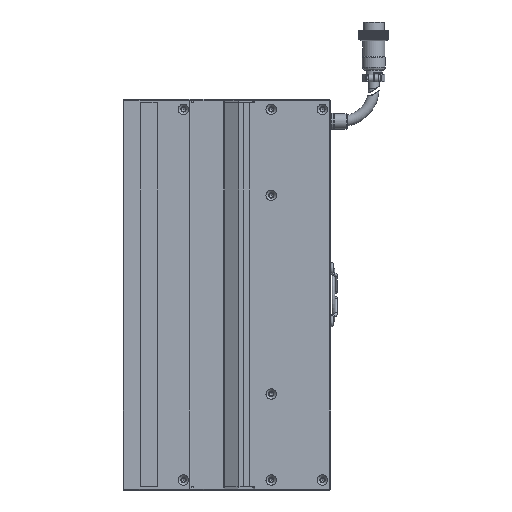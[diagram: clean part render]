
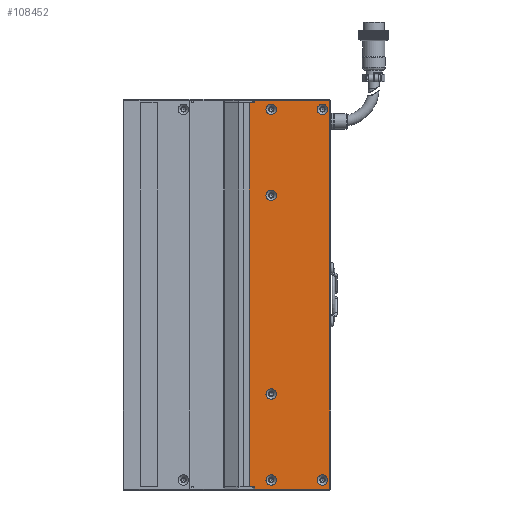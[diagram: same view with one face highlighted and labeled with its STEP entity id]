
A CAD part, left-side view. The second image highlights one B-rep face of the part: STEP entity #108452.
In plain terms, the highlighted planar face has unit normal (-1, 0, 0).
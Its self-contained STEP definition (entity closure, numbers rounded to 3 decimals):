
#178 = CARTESIAN_POINT ( 'NONE',  ( -24.998, -36.5, -112. ) ) ;
#300 = AXIS2_PLACEMENT_3D ( 'NONE', #178, #1355, #46596 ) ;
#1355 = DIRECTION ( 'NONE',  ( -1., 0., 0. ) ) ;
#2934 = FACE_BOUND ( 'NONE', #69316, .T. ) ;
#5555 = VERTEX_POINT ( 'NONE', #85342 ) ;
#7404 = CIRCLE ( 'NONE', #34135, 3.15 ) ;
#8455 = CARTESIAN_POINT ( 'NONE',  ( -24.998, -36.5, 60. ) ) ;
#8541 = CARTESIAN_POINT ( 'NONE',  ( -24.998, -26.5, -109. ) ) ;
#9167 = ORIENTED_EDGE ( 'NONE', *, *, #80696, .F. ) ;
#9360 = DIRECTION ( 'NONE',  ( -1., 0., 0. ) ) ;
#10610 = CIRCLE ( 'NONE', #37833, 3.15 ) ;
#12777 = ORIENTED_EDGE ( 'NONE', *, *, #48895, .T. ) ;
#18814 = CARTESIAN_POINT ( 'NONE',  ( -24.998, -36.5, 63.15 ) ) ;
#18902 = EDGE_LOOP ( 'NONE', ( #37335 ) ) ;
#20028 = CARTESIAN_POINT ( 'NONE',  ( -24.998, -26.5, 109. ) ) ;
#22432 = CARTESIAN_POINT ( 'NONE',  ( -24.998, -36.5, -108.85 ) ) ;
#24529 = LINE ( 'NONE', #56633, #40535 ) ;
#26698 = CIRCLE ( 'NONE', #300, 3.15 ) ;
#26938 = CIRCLE ( 'NONE', #34459, 3.15 ) ;
#27387 = EDGE_CURVE ( 'NONE', #50875, #50875, #10610, .T. ) ;
#29114 = FACE_BOUND ( 'NONE', #103604, .T. ) ;
#29634 = EDGE_LOOP ( 'NONE', ( #66583 ) ) ;
#29728 = CARTESIAN_POINT ( 'NONE',  ( -24.998, -67.5, -112. ) ) ;
#30045 = VERTEX_POINT ( 'NONE', #63463 ) ;
#30667 = FACE_BOUND ( 'NONE', #66935, .T. ) ;
#31002 = VECTOR ( 'NONE', #105621, 1000. ) ;
#32798 = EDGE_CURVE ( 'NONE', #117430, #33983, #24529, .T. ) ;
#32936 = CARTESIAN_POINT ( 'NONE',  ( -24.998, -72.5, 116. ) ) ;
#33086 = CARTESIAN_POINT ( 'NONE',  ( -24.998, -36.5, -56.85 ) ) ;
#33375 = DIRECTION ( 'NONE',  ( -1., 0., 0. ) ) ;
#33983 = VERTEX_POINT ( 'NONE', #118985 ) ;
#34135 = AXIS2_PLACEMENT_3D ( 'NONE', #111775, #9360, #75794 ) ;
#34459 = AXIS2_PLACEMENT_3D ( 'NONE', #8455, #33375, #52453 ) ;
#37335 = ORIENTED_EDGE ( 'NONE', *, *, #27387, .F. ) ;
#37833 = AXIS2_PLACEMENT_3D ( 'NONE', #103655, #84114, #56313 ) ;
#40535 = VECTOR ( 'NONE', #65598, 1000. ) ;
#41232 = VERTEX_POINT ( 'NONE', #41496 ) ;
#41496 = CARTESIAN_POINT ( 'NONE',  ( -24.998, -72., -117.5 ) ) ;
#45192 = CARTESIAN_POINT ( 'NONE',  ( -24.998, -72., 117.5 ) ) ;
#46039 = LINE ( 'NONE', #115596, #105891 ) ;
#46596 = DIRECTION ( 'NONE',  ( 0., 0., 1. ) ) ;
#46734 = DIRECTION ( 'NONE',  ( 0., 0., 1. ) ) ;
#47422 = LINE ( 'NONE', #20028, #89883 ) ;
#48696 = EDGE_CURVE ( 'NONE', #78734, #95938, #46039, .T. ) ;
#48895 = EDGE_CURVE ( 'NONE', #33983, #30045, #47422, .T. ) ;
#49371 = EDGE_CURVE ( 'NONE', #71260, #71260, #66497, .T. ) ;
#50875 = VERTEX_POINT ( 'NONE', #84885 ) ;
#52254 = EDGE_CURVE ( 'NONE', #68259, #68259, #26938, .T. ) ;
#52453 = DIRECTION ( 'NONE',  ( 0., 0., 1. ) ) ;
#54059 = ORIENTED_EDGE ( 'NONE', *, *, #107340, .F. ) ;
#56240 = VERTEX_POINT ( 'NONE', #72499 ) ;
#56313 = DIRECTION ( 'NONE',  ( 0., 0., 1. ) ) ;
#56498 = CARTESIAN_POINT ( 'NONE',  ( -24.998, -72., 116. ) ) ;
#56633 = CARTESIAN_POINT ( 'NONE',  ( -24.998, -72.5, 117.5 ) ) ;
#56999 = DIRECTION ( 'NONE',  ( 0., 0., 1. ) ) ;
#57125 = ORIENTED_EDGE ( 'NONE', *, *, #49371, .F. ) ;
#57839 = CARTESIAN_POINT ( 'NONE',  ( -24.998, -72.5, -116. ) ) ;
#60691 = EDGE_CURVE ( 'NONE', #65324, #65324, #75846, .T. ) ;
#61658 = DIRECTION ( 'NONE',  ( -1., 0., 0. ) ) ;
#61853 = VECTOR ( 'NONE', #120662, 1000. ) ;
#62130 = ORIENTED_EDGE ( 'NONE', *, *, #48696, .F. ) ;
#62511 = EDGE_LOOP ( 'NONE', ( #115245 ) ) ;
#63463 = CARTESIAN_POINT ( 'NONE',  ( -24.998, -26.5, 116. ) ) ;
#65324 = VERTEX_POINT ( 'NONE', #105259 ) ;
#65598 = DIRECTION ( 'NONE',  ( 0., 1., 0. ) ) ;
#66109 = DIRECTION ( 'NONE',  ( 0., 0., -1. ) ) ;
#66497 = CIRCLE ( 'NONE', #70156, 3.15 ) ;
#66583 = ORIENTED_EDGE ( 'NONE', *, *, #52254, .F. ) ;
#66935 = EDGE_LOOP ( 'NONE', ( #57125 ) ) ;
#67595 = DIRECTION ( 'NONE',  ( -1., 0., 0. ) ) ;
#68259 = VERTEX_POINT ( 'NONE', #18814 ) ;
#69316 = EDGE_LOOP ( 'NONE', ( #72147 ) ) ;
#70156 = AXIS2_PLACEMENT_3D ( 'NONE', #29728, #67595, #56999 ) ;
#71260 = VERTEX_POINT ( 'NONE', #75497 ) ;
#71836 = VECTOR ( 'NONE', #117733, 1000. ) ;
#72053 = DIRECTION ( 'NONE',  ( 0., 1., 0. ) ) ;
#72147 = ORIENTED_EDGE ( 'NONE', *, *, #60691, .F. ) ;
#72499 = CARTESIAN_POINT ( 'NONE',  ( -24.998, -26.5, -117.5 ) ) ;
#74077 = VERTEX_POINT ( 'NONE', #22432 ) ;
#75497 = CARTESIAN_POINT ( 'NONE',  ( -24.998, -67.5, -108.85 ) ) ;
#75794 = DIRECTION ( 'NONE',  ( 0., 0., 1. ) ) ;
#75846 = CIRCLE ( 'NONE', #109140, 3.15 ) ;
#78734 = VERTEX_POINT ( 'NONE', #98542 ) ;
#79460 = VECTOR ( 'NONE', #72053, 1000. ) ;
#79568 = EDGE_CURVE ( 'NONE', #78734, #5555, #82140, .T. ) ;
#80279 = DIRECTION ( 'NONE',  ( 0., 0., -1. ) ) ;
#80341 = VECTOR ( 'NONE', #46734, 1000. ) ;
#80696 = EDGE_CURVE ( 'NONE', #95938, #30045, #96616, .T. ) ;
#80887 = DIRECTION ( 'NONE',  ( 0., 0., 1. ) ) ;
#81708 = FACE_BOUND ( 'NONE', #18902, .T. ) ;
#82140 = LINE ( 'NONE', #57839, #31002 ) ;
#84001 = ORIENTED_EDGE ( 'NONE', *, *, #32798, .T. ) ;
#84114 = DIRECTION ( 'NONE',  ( -1., 0., 0. ) ) ;
#84589 = ORIENTED_EDGE ( 'NONE', *, *, #102957, .F. ) ;
#84885 = CARTESIAN_POINT ( 'NONE',  ( -24.998, -36.5, 115.15 ) ) ;
#85342 = CARTESIAN_POINT ( 'NONE',  ( -24.998, -26.5, -116. ) ) ;
#86073 = EDGE_CURVE ( 'NONE', #41232, #117430, #93427, .T. ) ;
#86701 = LINE ( 'NONE', #8541, #61853 ) ;
#88787 = EDGE_LOOP ( 'NONE', ( #97596, #84589, #98739, #110378, #84001, #12777, #9167, #62130 ) ) ;
#89883 = VECTOR ( 'NONE', #66109, 1000. ) ;
#93427 = LINE ( 'NONE', #56498, #80341 ) ;
#94524 = VERTEX_POINT ( 'NONE', #33086 ) ;
#95938 = VERTEX_POINT ( 'NONE', #97010 ) ;
#96288 = FACE_BOUND ( 'NONE', #62511, .T. ) ;
#96616 = LINE ( 'NONE', #32936, #71836 ) ;
#97010 = CARTESIAN_POINT ( 'NONE',  ( -24.998, -23.25, 116. ) ) ;
#97596 = ORIENTED_EDGE ( 'NONE', *, *, #79568, .T. ) ;
#98235 = AXIS2_PLACEMENT_3D ( 'NONE', #109246, #108840, #80279 ) ;
#98542 = CARTESIAN_POINT ( 'NONE',  ( -24.998, -23.25, -116. ) ) ;
#98739 = ORIENTED_EDGE ( 'NONE', *, *, #112469, .F. ) ;
#99271 = FACE_OUTER_BOUND ( 'NONE', #88787, .T. ) ;
#99807 = CARTESIAN_POINT ( 'NONE',  ( -24.998, -72.5, -117.5 ) ) ;
#102957 = EDGE_CURVE ( 'NONE', #56240, #5555, #86701, .T. ) ;
#103547 = FACE_BOUND ( 'NONE', #29634, .T. ) ;
#103604 = EDGE_LOOP ( 'NONE', ( #54059 ) ) ;
#103655 = CARTESIAN_POINT ( 'NONE',  ( -24.998, -36.5, 112. ) ) ;
#104187 = EDGE_CURVE ( 'NONE', #74077, #74077, #26698, .T. ) ;
#105259 = CARTESIAN_POINT ( 'NONE',  ( -24.998, -67.5, 115.15 ) ) ;
#105621 = DIRECTION ( 'NONE',  ( 0., -1., 0. ) ) ;
#105666 = LINE ( 'NONE', #99807, #79460 ) ;
#105891 = VECTOR ( 'NONE', #116011, 1000. ) ;
#107340 = EDGE_CURVE ( 'NONE', #94524, #94524, #7404, .T. ) ;
#108452 = ADVANCED_FACE ( 'NONE', ( #30667, #96288, #2934, #103547, #81708, #29114, #99271 ), #117374, .F. ) ;
#108650 = CARTESIAN_POINT ( 'NONE',  ( -24.998, -67.5, 112. ) ) ;
#108840 = DIRECTION ( 'NONE',  ( 1., 0., 0. ) ) ;
#109140 = AXIS2_PLACEMENT_3D ( 'NONE', #108650, #61658, #80887 ) ;
#109246 = CARTESIAN_POINT ( 'NONE',  ( -24.998, -72.5, 116. ) ) ;
#110378 = ORIENTED_EDGE ( 'NONE', *, *, #86073, .T. ) ;
#111775 = CARTESIAN_POINT ( 'NONE',  ( -24.998, -36.5, -60. ) ) ;
#112469 = EDGE_CURVE ( 'NONE', #41232, #56240, #105666, .T. ) ;
#115245 = ORIENTED_EDGE ( 'NONE', *, *, #104187, .F. ) ;
#115596 = CARTESIAN_POINT ( 'NONE',  ( -24.998, -23.25, -116. ) ) ;
#116011 = DIRECTION ( 'NONE',  ( 0., 0., 1. ) ) ;
#117374 = PLANE ( 'NONE',  #98235 ) ;
#117430 = VERTEX_POINT ( 'NONE', #45192 ) ;
#117733 = DIRECTION ( 'NONE',  ( 0., -1., 0. ) ) ;
#118985 = CARTESIAN_POINT ( 'NONE',  ( -24.998, -26.5, 117.5 ) ) ;
#120662 = DIRECTION ( 'NONE',  ( 0., 0., 1. ) ) ;
